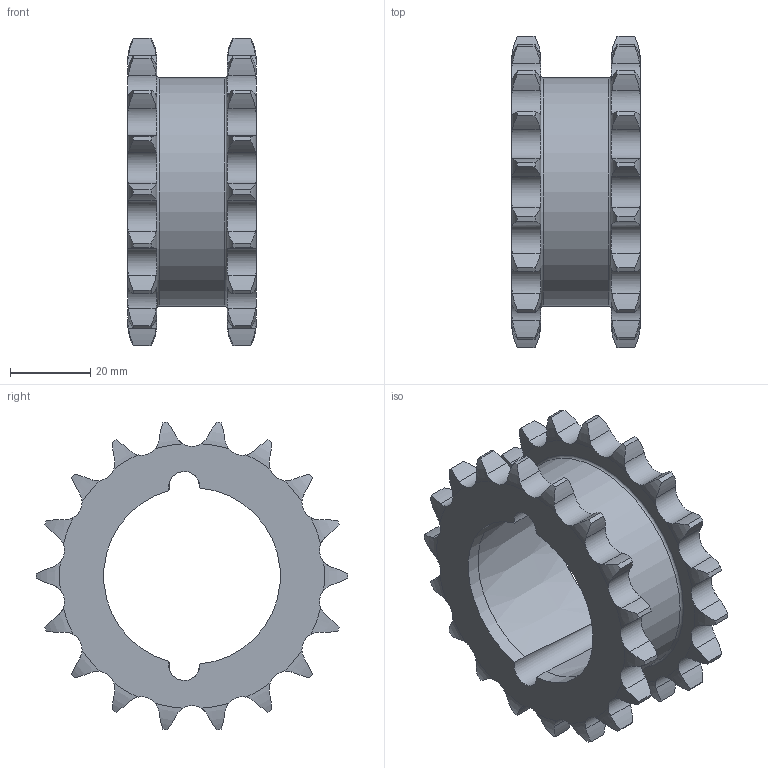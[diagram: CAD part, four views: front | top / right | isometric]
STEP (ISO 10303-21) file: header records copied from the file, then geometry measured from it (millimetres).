
FILE_DESCRIPTION(/* description */ (''),/* implementation_level */ '2;1');
FILE_NAME(/* name */ 'C:\Users\stagistaCAD\Desktop\27212018.stp',/* time_stamp */ '2018-06-25T08:54:01+02:00',/* author */ ('stagistacad'),/* organization */ (''),/* preprocessor_version */ 'ST-DEVELOPER v15.6',/* originating_system */ 'Autodesk Inventor 2015',/* authorisation */ '');
FILE_SCHEMA (('AUTOMOTIVE_DESIGN { 1 0 10303 214 3 1 1 }'));
Length unit declared in the file: millimetre
Products named in the file (1): 27212018
Bounding box: 32 x 77.63 x 76.65 mm (x, y, z)
Volume: 44153.1 mm3; surface area: 19106.5 mm2
Topology: 1 solids, 1 shells, 231 faces, 715 edges, 488 vertices
Faces by surface type: cylinder 150, torus 74, plane 4, cone 3
Full cylindrical faces by diameter (mm): 57 x1
Entity records: 9016 total; most frequent: CARTESIAN_POINT 3023, ORIENTED_EDGE 1424, DIRECTION 1078, EDGE_CURVE 712, VERTEX_POINT 488, AXIS2_PLACEMENT_3D 465, B_SPLINE_CURVE_WITH_KNOTS 331, EDGE_LOOP 238
